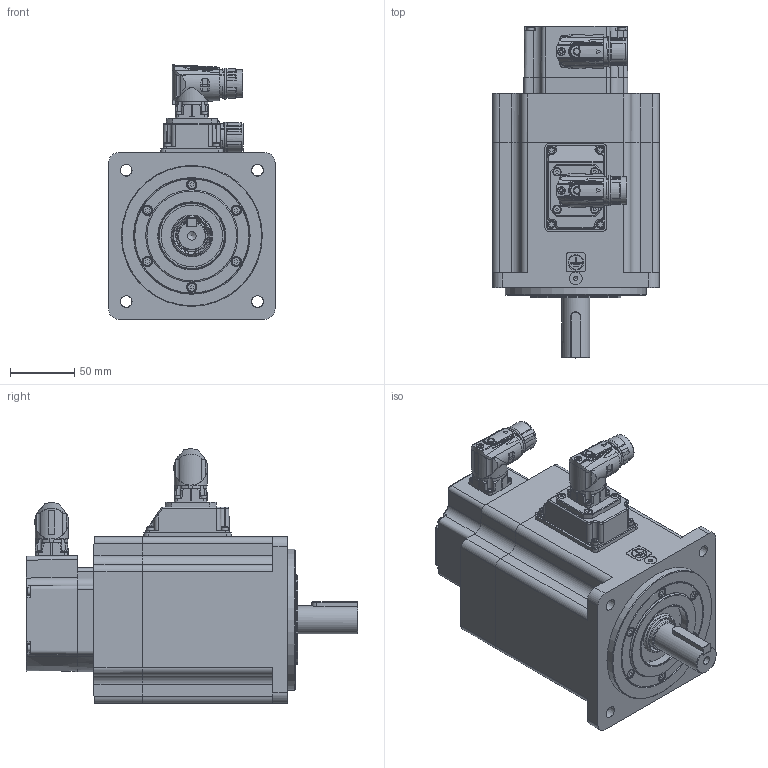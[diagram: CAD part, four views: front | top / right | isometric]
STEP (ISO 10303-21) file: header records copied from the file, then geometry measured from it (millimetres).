
FILE_DESCRIPTION( ( 'Unknown' ), '1' );
FILE_NAME( 'U:/05_Progetto TCE/010-TCE motor drawings/TCE130/Vuoti/TCE130 5F XX 3 A1 1 C2.stp', 'Unknown', ( 'Unknown' ), ( 'Unknown' ), 'PSStep 17.0.49', 'Unknown', ' ' );
FILE_SCHEMA( ( 'AUTOMOTIVE_DESIGN { 1 0 10303 214 1 1 1 1 }' ) );
Length unit declared in the file: millimetre
Products named in the file (13): 003103001510
Bounding box: 130.3 x 259 x 198.5 mm (x, y, z)
Volume: 1150215.6 mm3; surface area: 353565.7 mm2
Topology: 13 solids, 84 shells, 3024 faces, 7559 edges, 4874 vertices
Faces by surface type: plane 1469, cylinder 753, cone 292, bspline 230, torus 161, sphere 81, extrusion 38
Full cylindrical faces by diameter (mm): 0.5 x1, 1 x21, 1.2 x17, 1.4 x4, 2 x4, 2.013 x4, 2.2 x2, 2.459 x23, 2.5 x10, 2.6 x4, 2.8 x4, 3 x29, 3.2 x1, 3.242 x30, 3.5 x8, 4 x15, 4.134 x8, 4.4 x4, 4.5 x12, 4.7 x4, 5 x8, 5.5 x20, 5.8 x1, 5.9 x2, 6.647 x2, 6.8 x1, 7 x10, 8 x12, 8.5 x8, 10 x1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
Entity records: 125066 total; most frequent: CARTESIAN_POINT 37884, DIRECTION 13386, ORIENTED_EDGE 12984, EDGE_CURVE 6492, AXIS2_PLACEMENT_3D 5017, VERTEX_POINT 4603, EDGE_LOOP 4030, FACE_OUTER_BOUND 3503
